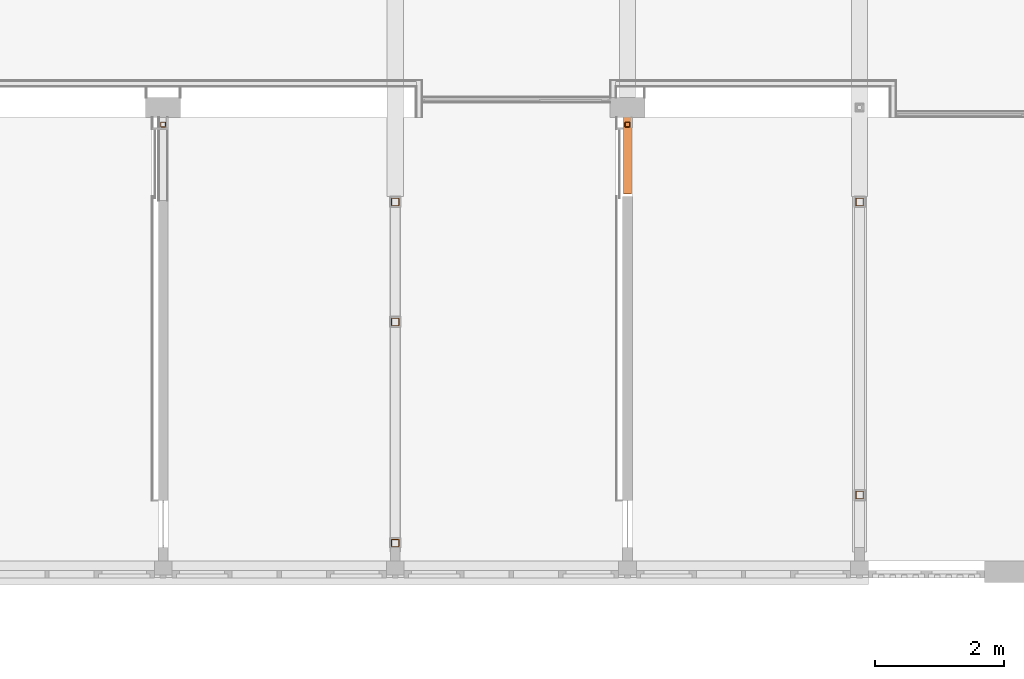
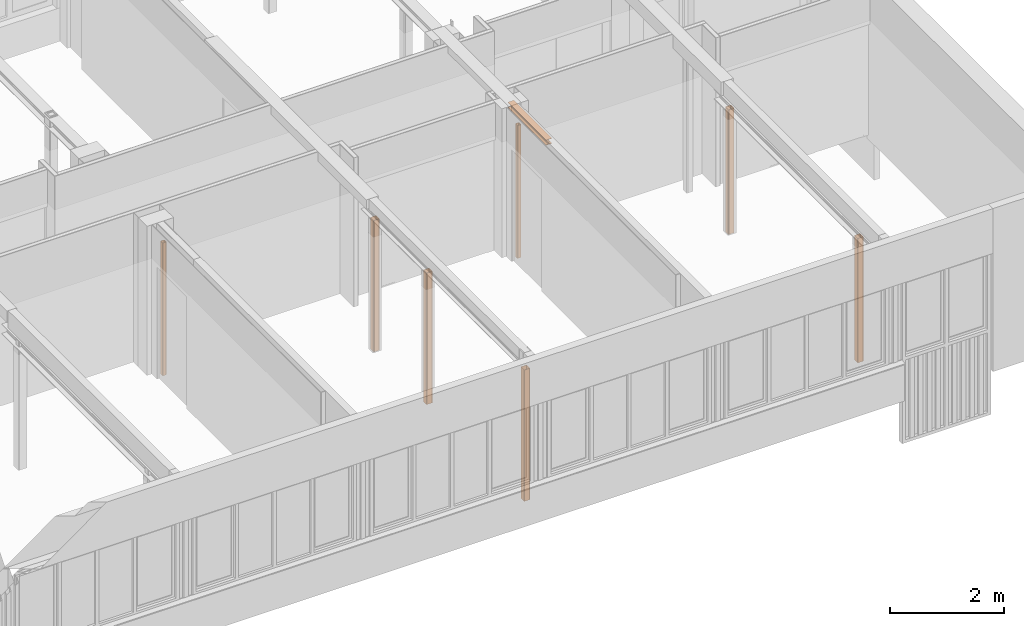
# One storey, part 86 of 99: 8 proxies.
"""IFC2X3 building model written with IfcOpenShell, lengths in millimetres."""

from ifc_helpers import new_model, entity, si_unit, converted_unit, derived_unit, money_unit, direction, frame, origin_with_axes, place, context, subcontext, project, spatial, faceted_brep, source, transform, mapped, material, type_object, type_shapes, element, save


model = new_model("IFC2X3")

# Units and contexts
model_context = context("Model", 3, precision=0.01, world=origin_with_axes(), true_north=direction((0.0, 1.0)))
body_context = subcontext(model_context, "Body", "Model", "MODEL_VIEW")
ifc_project = project(units=[si_unit("LENGTHUNIT", "METRE", prefix="MILLI"), si_unit("AREAUNIT", "SQUARE_METRE"), si_unit("VOLUMEUNIT", "CUBIC_METRE"), converted_unit("PLANEANGLEUNIT", "DEGREE", entity("IfcPlaneAngleMeasure", 0.0174532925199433), si_unit("PLANEANGLEUNIT", "RADIAN"), dimensions=[0, 0, 0, 0, 0, 0, 0]), money_unit("EUR"), converted_unit("TIMEUNIT", "Year", entity("IfcTimeMeasure", 31557600.0), si_unit("TIMEUNIT", "SECOND"), dimensions=[0, 0, 1, 0, 0, 0, 0]), si_unit("MASSUNIT", "GRAM", prefix="KILO"), si_unit("THERMODYNAMICTEMPERATUREUNIT", "DEGREE_CELSIUS"), si_unit("LUMINOUSINTENSITYUNIT", "LUMEN"), si_unit("ENERGYUNIT", "JOULE", prefix="MEGA"), derived_unit("THERMALCONDUCTANCEUNIT", [(si_unit("POWERUNIT", "WATT"), 1), (si_unit("LENGTHUNIT", "METRE"), -1), (si_unit("THERMODYNAMICTEMPERATUREUNIT", "KELVIN"), -1)]), derived_unit("SPECIFICHEATCAPACITYUNIT", [(si_unit("ENERGYUNIT", "JOULE"), 1), (si_unit("MASSUNIT", "GRAM", prefix="KILO"), -1), (si_unit("THERMODYNAMICTEMPERATUREUNIT", "KELVIN"), -1)]), derived_unit("MASSDENSITYUNIT", [(si_unit("MASSUNIT", "GRAM", prefix="KILO"), 1), (si_unit("VOLUMEUNIT", "CUBIC_METRE"), -1)])], contexts=[model_context])

# Site, building, storey
site_placement = place(None, origin_with_axes())
site = spatial("IfcSite", under=ifc_project, at=site_placement, Name="Site", CompositionType="ELEMENT")
building_placement = place(site_placement, origin_with_axes())
building = spatial("IfcBuilding", under=site, at=building_placement, Name="Naam gebouw", CompositionType="ELEMENT")
storey_placement = place(building_placement, frame((0.0, 0.0, 7650.0), z_axis=(0.0, 0.0, 1.0), x_axis=(1.0, 0.0, 0.0)))
storey = spatial("IfcBuildingStorey", under=building, at=storey_placement, Name="2e verdieping N", CompositionType="ELEMENT", Elevation=7650.0)

# Proxies
ifc_material = material(Name="Metaal - Staal AFW")
building_element_proxy_type_1 = type_object("IfcBuildingElementProxyType", Name="HEA balk 27", PredefinedType="NOTDEFINED")
shared_shape_1 = source(origin_with_axes(), body_context, "Body", "Brep", [
    faceted_brep([(0.0, -60.0, 0.0), (-1339.999999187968, -60.00000000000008, 0.0), (-1339.999999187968, 59.99999999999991, 0.0), (0.0, 60.0, 0.0), (0.0, -60.0, 8.0), (-1339.999999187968, -60.00000000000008, 8.000000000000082), (-1339.999999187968, -14.50000000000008, 8.000000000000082), (-1339.999999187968, -8.500000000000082, 9.607695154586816), (-1339.999999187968, -4.107695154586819, 14.00000000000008), (-1339.999999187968, -2.500000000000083, 20.00000000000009), (-1339.999999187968, -2.500000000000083, 94.0000000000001), (-1339.999999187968, -4.107695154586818, 100.0000000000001), (-1339.999999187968, -8.500000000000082, 104.3923048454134), (-1339.999999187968, -14.50000000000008, 106.0000000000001), (-1339.999999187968, -60.00000000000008, 106.0000000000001), (-1339.999999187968, -60.00000000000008, 114.0000000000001), (-1339.999999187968, 59.99999999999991, 114.0000000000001), (-1339.999999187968, 59.99999999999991, 106.0000000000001), (-1339.999999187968, 14.49999999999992, 106.0000000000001), (-1339.999999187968, 8.499999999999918, 104.3923048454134), (-1339.999999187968, 4.107695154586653, 100.0000000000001), (-1339.999999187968, 2.499999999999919, 94.0000000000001), (-1339.999999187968, 2.499999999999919, 20.00000000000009), (-1339.999999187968, 4.107695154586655, 14.00000000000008), (-1339.999999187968, 8.499999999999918, 9.607695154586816), (-1339.999999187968, 14.49999999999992, 8.000000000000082), (-1339.999999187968, 59.99999999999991, 8.000000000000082), (0.0, 60.0, 8.0), (0.0, 14.5, 8.0), (0.0, 8.5, 9.607695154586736), (0.0, 4.107695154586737, 14.0), (0.0, 2.5, 20.0), (0.0, 2.5, 94.00000000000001), (0.0, 4.107695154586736, 100.0), (0.0, 8.5, 104.3923048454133), (0.0, 14.5, 106.0), (0.0, 60.0, 106.0), (0.0, 60.0, 114.0), (0.0, -60.0, 114.0), (0.0, -60.0, 106.0), (0.0, -14.5, 106.0), (0.0, -8.5, 104.3923048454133), (0.0, -4.107695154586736, 100.0), (0.0, -2.5, 94.00000000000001), (0.0, -2.5, 20.0), (0.0, -4.107695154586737, 14.0), (0.0, -8.5, 9.607695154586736), (0.0, -14.5, 8.0)], [[[0, 1, 2, 3]], [[4, 5, 1, 0]], [[1, 5, 6, 7, 8, 9, 10, 11, 12, 13, 14, 15, 16, 17, 18, 19, 20, 21, 22, 23, 24, 25, 26, 2]], [[3, 2, 26, 27]], [[0, 3, 27, 28, 29, 30, 31, 32, 33, 34, 35, 36, 37, 38, 39, 40, 41, 42, 43, 44, 45, 46, 47, 4]], [[47, 6, 5, 4]], [[46, 7, 6, 47]], [[45, 8, 7, 46]], [[44, 9, 8, 45]], [[43, 10, 9, 44]], [[42, 11, 10, 43]], [[41, 12, 11, 42]], [[40, 13, 12, 41]], [[39, 14, 13, 40]], [[38, 15, 14, 39]], [[37, 16, 15, 38]], [[36, 17, 16, 37]], [[35, 18, 17, 36]], [[34, 19, 18, 35]], [[33, 20, 19, 34]], [[32, 21, 20, 33]], [[31, 22, 21, 32]], [[30, 23, 22, 31]], [[29, 24, 23, 30]], [[28, 25, 24, 29]], [[27, 26, 25, 28]]]),
])
type_shapes(building_element_proxy_type_1, [shared_shape_1])
proxy_placement = place(storey_placement, frame((50400.0, 16680.91242591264, 3065.999999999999), z_axis=(0.0, 0.0, 1.0), x_axis=(0.0, -1.0, 0.0)))
element("IfcBuildingElementProxy", 1, at=proxy_placement, inside=storey, type_object=building_element_proxy_type_1, material=ifc_material, Name="_Boom-x", context=body_context, shape_type="MappedRepresentation", body=[
    mapped(shared_shape_1, transform((0.0, 0.0, 0.0))),
])
building_element_proxy_type_2 = type_object("IfcBuildingElementProxyType", Name="Buis vk warmgew kolom 27", PredefinedType="NOTDEFINED")
shared_shape_2 = source(origin_with_axes(), body_context, "Body", "Brep", [
    faceted_brep([(49.99999999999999, -60.0, 0.0), (49.99999999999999, -60.0, 2669.997805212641), (-49.99999999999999, -60.0, 2669.997805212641), (-49.99999999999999, -60.0, 0.0), (57.07106781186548, -57.07106781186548, 0.0), (57.07106781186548, -57.07106781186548, 2669.997805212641), (60.0, -49.99999999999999, 2669.997805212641), (60.00000000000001, 49.99999999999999, 2669.997805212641), (57.07106781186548, 57.07106781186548, 2669.997805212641), (49.99999999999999, 60.0, 2669.997805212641), (-49.99999999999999, 60.00000000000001, 2669.997805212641), (-57.07106781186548, 57.07106781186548, 2669.997805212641), (-60.0, 49.99999999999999, 2669.997805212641), (-60.00000000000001, -49.99999999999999, 2669.997805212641), (-57.07106781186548, -57.07106781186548, 2669.997805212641), (49.99999999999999, -55.0, 2669.997805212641), (-49.99999999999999, -55.0, 2669.997805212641), (-53.53553390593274, -53.53553390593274, 2669.997805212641), (-55.0, -49.99999999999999, 2669.997805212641), (-55.0, 49.99999999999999, 2669.997805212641), (-53.53553390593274, 53.53553390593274, 2669.997805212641), (-49.99999999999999, 55.0, 2669.997805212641), (49.99999999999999, 55.0, 2669.997805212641), (53.53553390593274, 53.53553390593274, 2669.997805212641), (55.0, 49.99999999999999, 2669.997805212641), (55.0, -49.99999999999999, 2669.997805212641), (53.53553390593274, -53.53553390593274, 2669.997805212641), (-57.07106781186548, -57.07106781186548, 0.0), (-60.00000000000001, -49.99999999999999, 0.0), (-60.0, 49.99999999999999, 0.0), (-57.07106781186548, 57.07106781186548, 0.0), (-49.99999999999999, 60.00000000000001, 0.0), (49.99999999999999, 60.0, 0.0), (57.07106781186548, 57.07106781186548, 0.0), (60.00000000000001, 49.99999999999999, 0.0), (60.0, -49.99999999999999, 0.0), (49.99999999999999, -55.0, 0.0), (53.53553390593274, -53.53553390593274, 0.0), (55.0, -49.99999999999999, 0.0), (55.0, 49.99999999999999, 0.0), (53.53553390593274, 53.53553390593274, 0.0), (49.99999999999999, 55.0, 0.0), (-49.99999999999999, 55.0, 0.0), (-53.53553390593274, 53.53553390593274, 0.0), (-55.0, 49.99999999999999, 0.0), (-55.0, -49.99999999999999, 0.0), (-53.53553390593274, -53.53553390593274, 0.0), (-49.99999999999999, -55.0, 0.0)], [[[0, 1, 2, 3]], [[4, 5, 1, 0]], [[1, 5, 6, 7, 8, 9, 10, 11, 12, 13, 14, 2], [15, 16, 17, 18, 19, 20, 21, 22, 23, 24, 25, 26]], [[3, 2, 14, 27]], [[0, 3, 27, 28, 29, 30, 31, 32, 33, 34, 35, 4], [36, 37, 38, 39, 40, 41, 42, 43, 44, 45, 46, 47]], [[35, 6, 5, 4]], [[34, 7, 6, 35]], [[33, 8, 7, 34]], [[32, 9, 8, 33]], [[31, 10, 9, 32]], [[30, 11, 10, 31]], [[29, 12, 11, 30]], [[28, 13, 12, 29]], [[27, 14, 13, 28]], [[47, 16, 15, 36]], [[46, 17, 16, 47]], [[45, 18, 17, 46]], [[44, 19, 18, 45]], [[43, 20, 19, 44]], [[42, 21, 20, 43]], [[41, 22, 21, 42]], [[40, 23, 22, 41]], [[39, 24, 23, 40]], [[38, 25, 24, 39]], [[37, 26, 25, 38]], [[36, 15, 26, 37]]]),
])
for number, where, z_axis, x_axis, name in (
    (2, (54000.00000000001, 16560.91242510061, 0.0), (0.0, 0.0, 1.0), (0.0, -1.0, 0.0), "_Boom-x"),
    (3, (54000.00000000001, 12015.91242510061, 0.0), (0.0, 0.0, 1.0), (0.0, -1.0, 0.0), "_Boom-x"),
):
    element("IfcBuildingElementProxy", number, at=place(storey_placement, frame(where, z_axis=z_axis, x_axis=x_axis)), inside=storey, type_object=building_element_proxy_type_2, material=ifc_material, Name=name, context=body_context, shape_type="MappedRepresentation", body=[
        mapped(shared_shape_2, transform((0.0, 0.0, 0.0))),
    ])
shared_shape_3 = source(origin_with_axes(), body_context, "Body", "Brep", [
    faceted_brep([(49.99999999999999, -60.0, 0.0), (49.99999999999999, -60.0, 2819.999999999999), (-49.99999999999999, -60.0, 2819.999999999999), (-49.99999999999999, -60.0, 0.0), (57.07106781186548, -57.07106781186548, 0.0), (57.07106781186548, -57.07106781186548, 2819.999999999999), (60.0, -49.99999999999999, 2819.999999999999), (60.00000000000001, 49.99999999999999, 2819.999999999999), (57.07106781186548, 57.07106781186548, 2819.999999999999), (49.99999999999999, 60.0, 2819.999999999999), (-49.99999999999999, 60.00000000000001, 2819.999999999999), (-57.07106781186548, 57.07106781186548, 2819.999999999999), (-60.0, 49.99999999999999, 2819.999999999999), (-60.00000000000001, -49.99999999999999, 2819.999999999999), (-57.07106781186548, -57.07106781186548, 2819.999999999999), (49.99999999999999, -55.0, 2819.999999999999), (-49.99999999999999, -55.0, 2819.999999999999), (-53.53553390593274, -53.53553390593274, 2819.999999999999), (-55.0, -49.99999999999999, 2819.999999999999), (-55.0, 49.99999999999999, 2819.999999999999), (-53.53553390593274, 53.53553390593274, 2819.999999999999), (-49.99999999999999, 55.0, 2819.999999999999), (49.99999999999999, 55.0, 2819.999999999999), (53.53553390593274, 53.53553390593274, 2819.999999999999), (55.0, 49.99999999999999, 2819.999999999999), (55.0, -49.99999999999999, 2819.999999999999), (53.53553390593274, -53.53553390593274, 2819.999999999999), (-57.07106781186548, -57.07106781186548, 0.0), (-60.00000000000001, -49.99999999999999, 0.0), (-60.0, 49.99999999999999, 0.0), (-57.07106781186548, 57.07106781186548, 0.0), (-49.99999999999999, 60.00000000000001, 0.0), (49.99999999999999, 60.0, 0.0), (57.07106781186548, 57.07106781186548, 0.0), (60.00000000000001, 49.99999999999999, 0.0), (60.0, -49.99999999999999, 0.0), (49.99999999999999, -55.0, 0.0), (53.53553390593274, -53.53553390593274, 0.0), (55.0, -49.99999999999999, 0.0), (55.0, 49.99999999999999, 0.0), (53.53553390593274, 53.53553390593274, 0.0), (49.99999999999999, 55.0, 0.0), (-49.99999999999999, 55.0, 0.0), (-53.53553390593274, 53.53553390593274, 0.0), (-55.0, 49.99999999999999, 0.0), (-55.0, -49.99999999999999, 0.0), (-53.53553390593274, -53.53553390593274, 0.0), (-49.99999999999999, -55.0, 0.0)], [[[0, 1, 2, 3]], [[4, 5, 1, 0]], [[1, 5, 6, 7, 8, 9, 10, 11, 12, 13, 14, 2], [15, 16, 17, 18, 19, 20, 21, 22, 23, 24, 25, 26]], [[3, 2, 14, 27]], [[0, 3, 27, 28, 29, 30, 31, 32, 33, 34, 35, 4], [36, 37, 38, 39, 40, 41, 42, 43, 44, 45, 46, 47]], [[35, 6, 5, 4]], [[34, 7, 6, 35]], [[33, 8, 7, 34]], [[32, 9, 8, 33]], [[31, 10, 9, 32]], [[30, 11, 10, 31]], [[29, 12, 11, 30]], [[28, 13, 12, 29]], [[27, 14, 13, 28]], [[47, 16, 15, 36]], [[46, 17, 16, 47]], [[45, 18, 17, 46]], [[44, 19, 18, 45]], [[43, 20, 19, 44]], [[42, 21, 20, 43]], [[41, 22, 21, 42]], [[40, 23, 22, 41]], [[39, 24, 23, 40]], [[38, 25, 24, 39]], [[37, 26, 25, 38]], [[36, 15, 26, 37]]]),
])
for number, where, z_axis, x_axis, name in (
    (4, (46800.00000000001, 11270.91242510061, 0.0), (0.0, 0.0, 1.0), (0.0, -1.0, 0.0), "_Boom-x"),
    (5, (46800.0, 16560.91242510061, 0.0), (0.0, 0.0, 1.0), (0.0, -1.0, 0.0), "_Boom-x"),
    (6, (46800.0, 14699.84204585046, 0.0), (0.0, 0.0, 1.0), (0.0, -1.0, 0.0), "_Boom-x"),
):
    element("IfcBuildingElementProxy", number, at=place(storey_placement, frame(where, z_axis=z_axis, x_axis=x_axis)), inside=storey, type_object=building_element_proxy_type_2, material=ifc_material, Name=name, context=body_context, shape_type="MappedRepresentation", body=[
        mapped(shared_shape_3, transform((0.0, 0.0, 0.0))),
    ])
shared_shape_4 = source(origin_with_axes(), body_context, "Body", "Brep", [
    faceted_brep([(30.0, -40.0, 0.0), (30.0, -40.0, 2849.999999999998), (-30.0, -40.0, 2849.999999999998), (-30.0, -40.0, 0.0), (37.07106781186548, -37.07106781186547, 0.0), (37.07106781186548, -37.07106781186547, 2849.999999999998), (40.0, -30.0, 2849.999999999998), (39.99999999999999, 30.00000000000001, 2849.999999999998), (37.07106781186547, 37.07106781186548, 2849.999999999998), (30.0, 40.0, 2849.999999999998), (-30.00000000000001, 39.99999999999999, 2849.999999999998), (-37.07106781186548, 37.07106781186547, 2849.999999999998), (-40.0, 30.0, 2849.999999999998), (-39.99999999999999, -30.00000000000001, 2849.999999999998), (-37.07106781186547, -37.07106781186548, 2849.999999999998), (30.0, -35.0, 2849.999999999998), (-30.0, -35.0, 2849.999999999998), (-33.53553390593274, -33.53553390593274, 2849.999999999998), (-35.0, -30.0, 2849.999999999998), (-35.0, 30.0, 2849.999999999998), (-33.53553390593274, 33.53553390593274, 2849.999999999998), (-30.0, 35.0, 2849.999999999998), (30.0, 35.0, 2849.999999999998), (33.53553390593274, 33.53553390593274, 2849.999999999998), (35.0, 30.0, 2849.999999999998), (35.0, -30.0, 2849.999999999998), (33.53553390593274, -33.53553390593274, 2849.999999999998), (-37.07106781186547, -37.07106781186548, 0.0), (-39.99999999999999, -30.00000000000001, 0.0), (-40.0, 30.0, 0.0), (-37.07106781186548, 37.07106781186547, 0.0), (-30.00000000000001, 39.99999999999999, 0.0), (30.0, 40.0, 0.0), (37.07106781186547, 37.07106781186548, 0.0), (39.99999999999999, 30.00000000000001, 0.0), (40.0, -30.0, 0.0), (30.0, -35.0, 0.0), (33.53553390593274, -33.53553390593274, 0.0), (35.0, -30.0, 0.0), (35.0, 30.0, 0.0), (33.53553390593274, 33.53553390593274, 0.0), (30.0, 35.0, 0.0), (-30.0, 35.0, 0.0), (-33.53553390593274, 33.53553390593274, 0.0), (-35.0, 30.0, 0.0), (-35.0, -30.0, 0.0), (-33.53553390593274, -33.53553390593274, 0.0), (-30.0, -35.0, 0.0)], [[[0, 1, 2, 3]], [[4, 5, 1, 0]], [[1, 5, 6, 7, 8, 9, 10, 11, 12, 13, 14, 2], [15, 16, 17, 18, 19, 20, 21, 22, 23, 24, 25, 26]], [[3, 2, 14, 27]], [[0, 3, 27, 28, 29, 30, 31, 32, 33, 34, 35, 4], [36, 37, 38, 39, 40, 41, 42, 43, 44, 45, 46, 47]], [[35, 6, 5, 4]], [[34, 7, 6, 35]], [[33, 8, 7, 34]], [[32, 9, 8, 33]], [[31, 10, 9, 32]], [[30, 11, 10, 31]], [[29, 12, 11, 30]], [[28, 13, 12, 29]], [[27, 14, 13, 28]], [[47, 16, 15, 36]], [[46, 17, 16, 47]], [[45, 18, 17, 46]], [[44, 19, 18, 45]], [[43, 20, 19, 44]], [[42, 21, 20, 43]], [[41, 22, 21, 42]], [[40, 23, 22, 41]], [[39, 24, 23, 40]], [[38, 25, 24, 39]], [[37, 26, 25, 38]], [[36, 15, 26, 37]]]),
])
type_shapes(building_element_proxy_type_2, [shared_shape_3, shared_shape_2, shared_shape_4])
for number, where, z_axis, x_axis, name in (
    (7, (43199.99999999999, 17760.91242510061, 0.0), (0.0, 0.0, 1.0), (0.0, -1.0, 0.0), "_Boom-x"),
    (8, (50399.99999999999, 17760.91242510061, 0.0), (0.0, 0.0, 1.0), (0.0, -1.0, 0.0), "_Boom-x"),
):
    element("IfcBuildingElementProxy", number, at=place(storey_placement, frame(where, z_axis=z_axis, x_axis=x_axis)), inside=storey, type_object=building_element_proxy_type_2, material=ifc_material, Name=name, context=body_context, shape_type="MappedRepresentation", body=[
        mapped(shared_shape_4, transform((0.0, 0.0, 0.0))),
    ])

save(model, "model.ifc")
